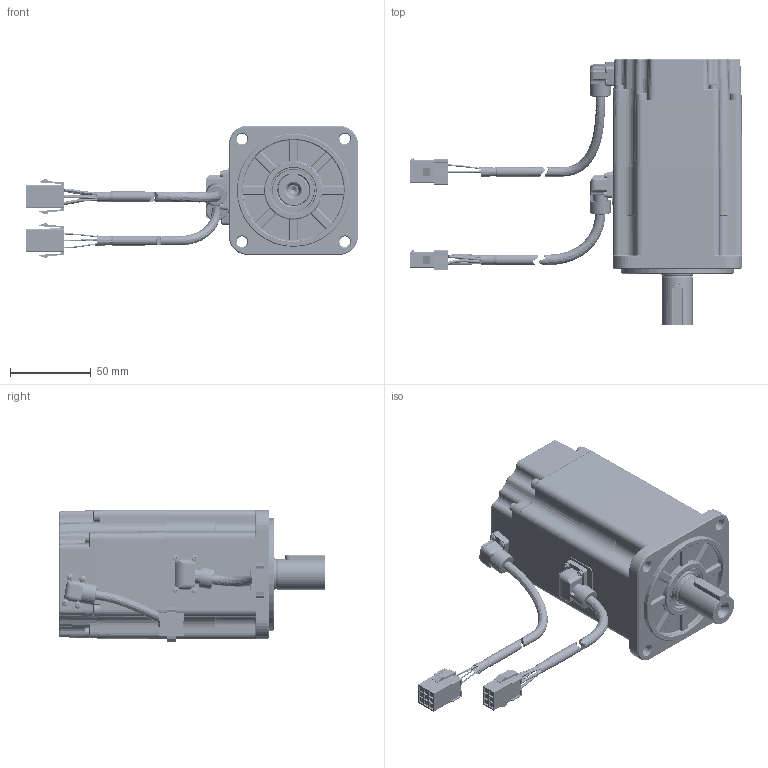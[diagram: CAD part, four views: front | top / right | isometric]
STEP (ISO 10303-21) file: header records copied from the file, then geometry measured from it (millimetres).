
FILE_DESCRIPTION (( 'STEP AP203' ), '1' );
FILE_NAME ('80µç»ú_DM2A-08A80I8E.STEP', '2025-04-07T00:46:18', ( 'MIDEA' ), ( 'MIDEA' ), 'SwSTEP 2.0', 'SolidWorks 2020', '' );
FILE_SCHEMA (( 'CONFIG_CONTROL_DESIGN' ));
Length unit declared in the file: millimetre
Products named in the file (32): 80珨极褲_YTK08A80DM3; 1022700-0043_80躇猾菜_MFD08A80DM1; c-172160-1-n-3d.stp; DM2A-80 隅赽郪璃; 4040300-0233_雄薯盄_DD-040; 1022600-0015_嘎殤蚐猾_TC22327(NAK-NBR)-6004; 内六角圆柱头螺钉-M4x50-8.8级-镀锌镍合金+耐落(GB-T 70.1); 80綴傷裔_HDG10A80PH3-BX; 1012100-0154_濮揤諉盄傷赽_OT1-2; 80嘎殤_GJ08A80DM2A_202541; Z08A80DM3-B; 2010500-0092_す瑩-B6x6x22-湍M3れ瑩蹟恇謂(GB-T 1096-2003); 6芯线_4x18AWG+2x20AWG铁氟龙绝缘  外径 7.0±0.2  芯线：红，白，黑，黄绿，蓝，棕; 晤鎢ん陓瘍盄; 20BIT_EN_PH3_蕼偞; 80隅赽軞傖_DZ08A80DM2A-B; 80萇儂_DM2A-08A80I8E; 2011200-00_疏倛粟銅-41x31x0.25; PCB10A80PH3-SX; 2010200-0239_十字自挤螺钉M2x6_十字槽盘头自挤螺钉-M2x6+镀锌镍合金（黑）（GBT 6560）; 1030204-0036_脣釱172161-1_4.14蟀諉ん譫芛9P; 80蛌赽郪璃_ZZ08A80DM3-B; 80珨极褲禱矗_YTK08A80DM2AM; 十字槽小盘头螺钉弹垫平垫组合件-M2x6-8.8级-镀锌镍合金（黑）(GBT 9074 ）; 1022900-0063_陓瘍盄嘐隅芛_SC-MC7S-A1-3; 1022900-0062_雄薯盄嘐隅芛_SC-MC4S-A1-3; 3020105-0047_80编码器成品_80编码器组件（DM1黑色后罩壳 锐鹰多圈16位单圈17位分体式绝对值磁性编码器 外径46 出线30）; 3021200-0019_80后罩壳（黑色）_HZK08A80DM1M-H; 2010100-0181_内六角圆柱头螺钉-M4x16-8.8级-镀锌镍合金+耐落(GB-T 70.1); 80綴傷裔禱矗_HDG08A80PH3M-BX; 2010100-0180_内六角圆柱头螺钉-M3x10-8.8级-镀锌镍合金+耐落(GB-T 70.1); 80棠詩_CG08A80DM3
Assembly tree (54 placements, depth 4):
  80萇儂_DM2A-08A80I8E
    80隅赽軞傖_DZ08A80DM2A-B
      DM2A-80 隅赽郪璃
        80嘎殤_GJ08A80DM2A_202541
      80珨极褲_YTK08A80DM3
        80珨极褲禱矗_YTK08A80DM2AM
      PCB10A80PH3-SX
      4040300-0233_雄薯盄_DD-040
        1022900-0062_雄薯盄嘐隅芛_SC-MC4S-A1-3
        6芯线_4x18AWG+2x20AWG铁氟龙绝缘  外径 7.0±0.2  芯线：红，白，黑，黄绿，蓝，棕
        1012100-0154_濮揤諉盄傷赽_OT1-2
        c-172160-1-n-3d.stp
    80蛌赽郪璃_ZZ08A80DM3-B
      Z08A80DM3-B
      80棠詩_CG08A80DM3  x9
    1022700-0043_80躇猾菜_MFD08A80DM1
    3020105-0047_80编码器成品_80编码器组件（DM1黑色后罩壳 锐鹰多圈16位单圈17位分体式绝对值磁性编码器 外径46 出线30）
      3021200-0019_80后罩壳（黑色）_HZK08A80DM1M-H
      1022900-0063_陓瘍盄嘐隅芛_SC-MC7S-A1-3
      1030204-0036_脣釱172161-1_4.14蟀諉ん譫芛9P
      2010200-0239_十字自挤螺钉M2x6_十字槽盘头自挤螺钉-M2x6+镀锌镍合金（黑）（GBT 6560）  x4
      晤鎢ん陓瘍盄
    2010100-0180_内六角圆柱头螺钉-M3x10-8.8级-镀锌镍合金+耐落(GB-T 70.1)  x4
    十字槽小盘头螺钉弹垫平垫组合件-M2x6-8.8级-镀锌镍合金（黑）(GBT 9074 ）  x5
    1022600-0015_嘎殤蚐猾_TC22327(NAK-NBR)-6004
    2011200-00_疏倛粟銅-41x31x0.25
    80綴傷裔_HDG10A80PH3-BX
      80綴傷裔禱矗_HDG08A80PH3M-BX
    2010100-0181_内六角圆柱头螺钉-M4x16-8.8级-镀锌镍合金+耐落(GB-T 70.1)  x3
    内六角圆柱头螺钉-M4x50-8.8级-镀锌镍合金+耐落(GB-T 70.1)  x4
    2010500-0092_す瑩-B6x6x22-湍M3れ瑩蹟恇謂(GB-T 1096-2003)
    20BIT_EN_PH3_蕼偞
Bounding box: 205.5 x 165 x 82.11 mm (x, y, z)
Volume: 341429.8 mm3; surface area: 170265.5 mm2
Topology: 81 solids, 81 shells, 6319 faces, 16471 edges, 10403 vertices
Faces by surface type: plane 3326, bspline 1222, cylinder 988, torus 301, cone 296, sphere 186
Full cylindrical faces by diameter (mm): 0.2 x2, 0.5 x1, 0.55 x2, 0.8 x13, 1.2 x3, 1.6 x10, 1.75 x4, 1.8 x20, 2 x15, 2.2 x6, 2.3 x7, 2.4 x3, 2.5 x9, 3 x5, 3.3 x10, 3.5 x5, 4 x11, 4.5 x5, 4.7 x4, 5 x1, 5.5 x5, 5.8 x5, 6 x8, 6.4 x4, 6.5 x2, 6.6 x5, 7 x7, 8 x1, 8.4 x1, 11.6 x1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
Entity records: 228694 total; most frequent: CARTESIAN_POINT 91995, ORIENTED_EDGE 29238, DIRECTION 23938, EDGE_CURVE 14619, VERTEX_POINT 9578, VECTOR 9178, LINE 9178, AXIS2_PLACEMENT_3D 7380
